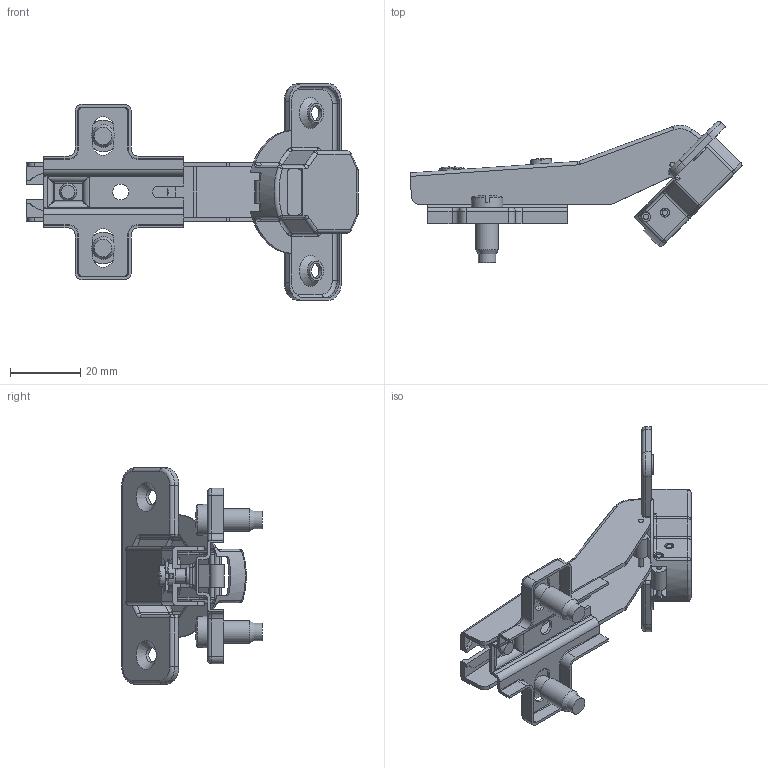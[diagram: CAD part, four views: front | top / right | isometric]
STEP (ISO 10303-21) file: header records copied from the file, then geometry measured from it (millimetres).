
FILE_DESCRIPTION(/* description */ (''),/* implementation_level */ '2;1');
FILE_NAME(/* name */ 'W:\R&D\pub\Katalog techniczny\bryły 3D\ZP-KT45H2-ZE.stp',/* time_stamp */ '2016-10-14T12:57:00+02:00',/* author */ ('tomaszw'),/* organization */ (''),/* preprocessor_version */ 'ST-DEVELOPER v16.1',/* originating_system */ 'Autodesk Inventor 2016',/* authorisation */ '');
FILE_SCHEMA (('AUTOMOTIVE_DESIGN { 1 0 10303 214 3 1 1 }'));
Length unit declared in the file: millimetre
Products named in the file (11): ZP-KT-P; ZP-KT_1; ZP-KT_3; ZP-KT45; ZP-KT_Pin2; ZP-KT_Pin1; Euro; Wkret4x6; ZP-KT_P; ZP-KT_5; ZP-KT135(45)(30)-ZE(BE)
Assembly tree (13 placements, depth 2):
  ZP-KT135(45)(30)-ZE(BE)
    ZP-KT-P
    ZP-KT_1
    ZP-KT_3
    ZP-KT45
    ZP-KT_Pin2  x2
    ZP-KT_Pin1  x2
    Euro  x2
    Wkret4x6
    ZP-KT_P
    ZP-KT_5
Bounding box: 94.68 x 40.15 x 61.7 mm (x, y, z)
Volume: 10056.6 mm3; surface area: 20558.4 mm2
Topology: 15 solids, 15 shells, 593 faces, 1466 edges, 893 vertices
Faces by surface type: cylinder 239, plane 228, torus 56, sphere 30, bspline 26, cone 14
Full cylindrical faces by diameter (mm): 1.5 x13, 2.6 x4, 3.5 x1, 4 x1, 4.2 x2, 4.5 x1, 5 x3, 5.5 x2, 5.6 x2, 6 x2, 6.5 x2, 7 x1, 9 x2, 10.4 x1
Entity records: 17860 total; most frequent: CARTESIAN_POINT 3743, DIRECTION 3045, ORIENTED_EDGE 2704, EDGE_CURVE 1352, AXIS2_PLACEMENT_3D 1171, VERTEX_POINT 849, LINE 703, VECTOR 703
